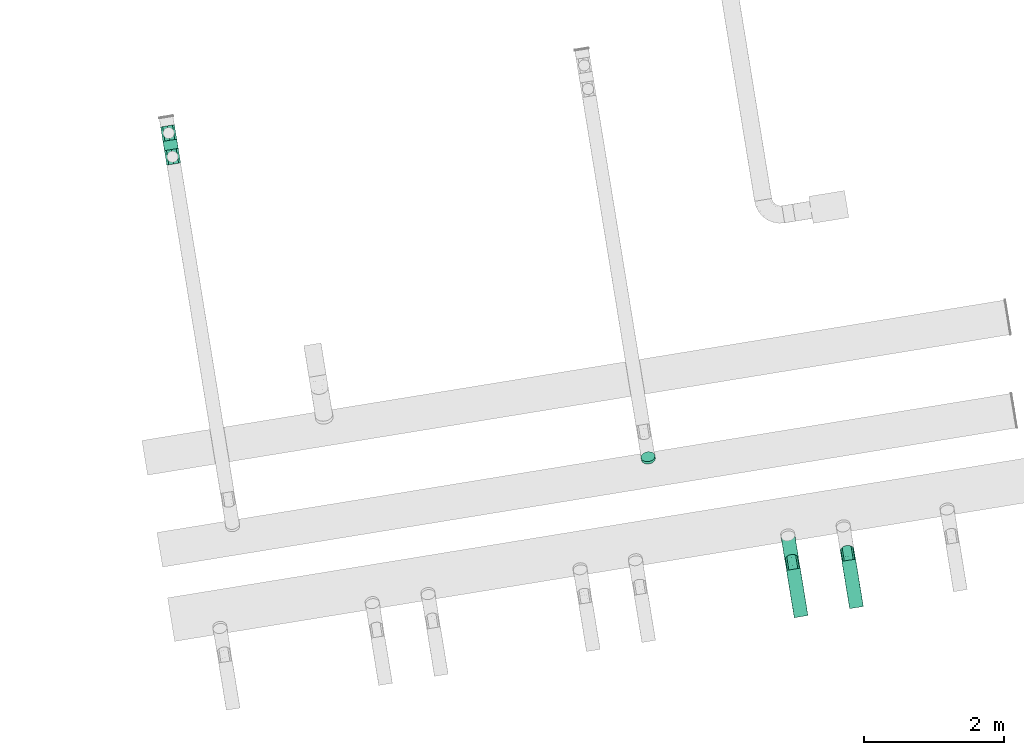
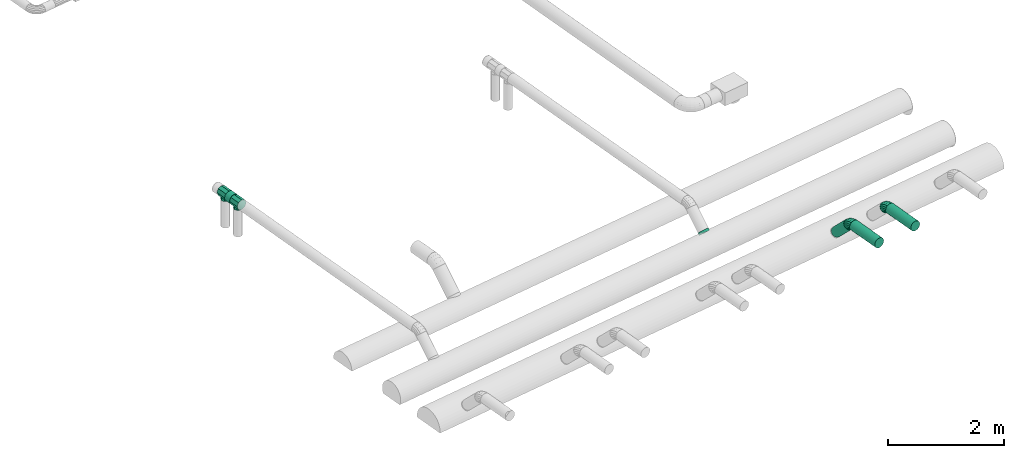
# One storey, part 4 of 19: 5 flow fittings, 4 flow segments.
"""IFC2X3 building model written with IfcOpenShell, lengths in millimetres."""

from ifc_helpers import new_model, entity, si_unit, converted_unit, derived_unit, direction, frame, frame_2d, origin, origin_with_axes, origin_2d_with_axis, place, context, subcontext, project, spatial, circle, extrude, faceted_brep, source, transform, mapped, material, type_object, element, save


model = new_model("IFC2X3")

# Units and contexts
model_context = context("Model", 3, precision=0.01, world=origin(), true_north=direction((6.12323399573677e-17, 1.0)))
plan_context = context("Plan", 3, precision=1e-05, world=origin_with_axes())
body_context = subcontext(model_context, "Body", "Model", "MODEL_VIEW")
ifc_project = project(units=[converted_unit("PLANEANGLEUNIT", "DEGREE", entity("IfcPositiveLengthMeasure", 0.0174532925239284), si_unit("PLANEANGLEUNIT", "RADIAN"), dimensions=[0, 0, 0, 0, 0, 0, 0]), si_unit("AREAUNIT", "SQUARE_METRE"), si_unit("LENGTHUNIT", "METRE", prefix="MILLI"), si_unit("MASSUNIT", "GRAM", prefix="KILO"), si_unit("POWERUNIT", "WATT"), si_unit("PRESSUREUNIT", "PASCAL", prefix="KILO"), si_unit("FORCEUNIT", "NEWTON", prefix="KILO"), si_unit("ELECTRICVOLTAGEUNIT", "VOLT"), si_unit("ELECTRICCURRENTUNIT", "AMPERE"), si_unit("THERMODYNAMICTEMPERATUREUNIT", "DEGREE_CELSIUS"), si_unit("TIMEUNIT", "SECOND"), si_unit("VOLUMEUNIT", "CUBIC_METRE"), derived_unit("LINEARVELOCITYUNIT", [(si_unit("LENGTHUNIT", "METRE"), 1), (si_unit("TIMEUNIT", "SECOND"), -1)]), derived_unit("VOLUMETRICFLOWRATEUNIT", [(si_unit("VOLUMEUNIT", "CUBIC_METRE"), 1), (si_unit("TIMEUNIT", "SECOND"), -1)]), derived_unit("THERMALTRANSMITTANCEUNIT", [(si_unit("POWERUNIT", "WATT"), 1), (si_unit("THERMODYNAMICTEMPERATUREUNIT", "KELVIN"), -1), (si_unit("AREAUNIT", "SQUARE_METRE"), -1)]), derived_unit("SOUNDPRESSUREUNIT", [(si_unit("PRESSUREUNIT", "PASCAL"), 1)])], contexts=[model_context, plan_context])

# Site, building, storey
site_placement = place(None, frame((5.09380697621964e-08, 5.80416781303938e-08, 0.0), z_axis=(0.0, 0.0, 1.0), x_axis=(-0.160806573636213, 0.986985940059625, 0.0)))
site = spatial("IfcSite", under=ifc_project, at=site_placement, Name="Default", CompositionType="ELEMENT")
building_placement = place(site_placement, frame((0.0, 0.0, 0.0), z_axis=(0.0, 0.0, 1.0), x_axis=(1.0, -2.77555756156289e-17, 0.0)))
building = spatial("IfcBuilding", under=site, at=building_placement, Name="Bygning (endres i Project Information)", CompositionType="ELEMENT")
storey_placement = place(building_placement, frame((0.0, 0.0, 51360.0000000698), z_axis=(0.0, 0.0, 1.0), x_axis=(1.0, -2.77555756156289e-17, 0.0)))
storey = spatial("IfcBuildingStorey", under=building, at=storey_placement, Name="H01-Nivå D+0,36", CompositionType="ELEMENT", Elevation=51360.0000000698)

# Flow fittings
ifc_material_1 = material(Name="DF_Material1")
duct_fitting_type_1 = type_object("IfcDuctFittingType", Name="Lindab TCPU:TCPU", PredefinedType="NOTDEFINED", material=ifc_material_1)
shared_shape_1 = source(origin(), body_context, "Body", "Brep", [
    faceted_brep([(80.0000001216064, -125.0, 0.0), (56.5685425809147, -125.0, 56.5685425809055), (0.0, -125.0, 80.0000001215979), (-56.5685425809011, -125.0, 56.5685425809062), (-80.0000001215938, -125.0, 0.0), (-56.568542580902, -125.0, -56.5685425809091), (0.0, -125.0, -80.0000001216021), (56.568542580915, -125.0, -56.568542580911), (-60.636107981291, -85.3037959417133, 52.1848869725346), (0.0, -60.0000000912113, 80.0000001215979), (-80.0000001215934, -100.000000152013, 0.0), (-70.3180540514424, -92.6518980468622, 26.092443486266), (-65.5820813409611, -89.4264237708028, -30.7499125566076), (-51.1641625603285, -78.852847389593, -61.4998251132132), (0.0, -60.0000000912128, -80.0000001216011), (60.6361079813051, -85.303795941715, -52.1848869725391), (80.0000001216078, -100.000000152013, 0.0), (70.3180540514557, -92.651898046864, -26.0924434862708), (65.5794107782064, -89.424691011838, 30.7521341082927), (51.1588214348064, -78.8493818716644, 61.504268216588), (-104.499999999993, -100.000000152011, 0.0), (-104.499999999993, -92.6776696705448, 17.677669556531), (-104.499999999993, -85.3553391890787, 35.3553391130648), (-104.499999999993, -70.7106782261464, 70.7106782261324), (-104.499999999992, 0.0, 100.000000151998), (-104.499999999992, 70.7106782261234, 70.7106782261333), (-104.499999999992, 100.000000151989, 0.0), (-104.499999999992, 70.7106782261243, -70.7106782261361), (-104.499999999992, 0.0, -100.000000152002), (-104.499999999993, -70.7106782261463, -70.7106782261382), (-104.499999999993, -85.3553391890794, -35.3553391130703), (104.500000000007, -70.7106782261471, 70.7106782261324), (104.500000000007, -85.3553391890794, 35.3553391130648), (104.500000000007, -100.000000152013, 0.0), (104.500000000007, -92.6776696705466, -17.6776695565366), (104.500000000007, -85.3553391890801, -35.3553391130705), (104.500000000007, -70.710678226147, -70.7106782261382), (104.500000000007, 0.0, -100.000000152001), (104.500000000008, 70.7106782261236, -70.7106782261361), (104.500000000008, 100.000000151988, 0.0), (104.500000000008, 70.7106782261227, 70.7106782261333), (104.500000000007, 0.0, 100.000000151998)], [[[0, 1, 2, 3, 4, 5, 6, 7]], [[2, 8, 3]], [[8, 2, 9]], [[10, 4, 3]], [[3, 8, 11, 10]], [[4, 10, 5]], [[5, 10, 12, 13]], [[13, 14, 6]], [[13, 6, 5]], [[6, 15, 7]], [[15, 6, 14]], [[16, 0, 7]], [[7, 15, 17, 16]], [[0, 16, 1]], [[1, 16, 18, 19]], [[19, 9, 2]], [[19, 2, 1]], [[20, 21, 22, 23, 24, 25, 26, 27, 28, 29, 30]], [[31, 32, 33, 34, 35, 36, 37, 38, 39, 40, 41]], [[24, 41, 40, 25]], [[40, 39, 26, 25]], [[39, 38, 27, 26]], [[38, 37, 28, 27]], [[37, 36, 14]], [[28, 14, 29]], [[14, 28, 37]], [[13, 29, 14]], [[17, 35, 34]], [[14, 36, 15]], [[35, 17, 15]], [[34, 16, 17]], [[30, 13, 12]], [[20, 30, 12]], [[15, 36, 35]], [[16, 34, 33]], [[13, 30, 29]], [[20, 12, 10]], [[11, 22, 21]], [[33, 18, 16]], [[11, 8, 22]], [[10, 21, 20]], [[32, 19, 18]], [[21, 10, 11]], [[32, 18, 33]], [[9, 19, 31]], [[31, 19, 32]], [[9, 31, 41]], [[23, 9, 24]], [[23, 8, 9]], [[24, 9, 41]], [[8, 23, 22]]]),
])
for number, where, z_axis, x_axis in (
    (1, (1000004.89913365, -385132.73177938, 3820.00000015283), (-2.77555756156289e-17, -1.0, 0.0), (1.0, -2.77555756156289e-17, 0.0)),
    (2, (1000347.1737039, -385132.73177938, 3820.00000015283), (-2.77555756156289e-17, -1.0, 0.0), (1.0, -2.77555756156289e-17, 0.0)),
):
    element("IfcFlowFitting", number, at=place(storey_placement, frame(where, z_axis=z_axis, x_axis=x_axis)), inside=storey, type_object=duct_fitting_type_1, material=ifc_material_1, Name="Lindab TCPU:TCPU", ObjectType="Lindab TCPU:TCPU", context=body_context, shape_type="MappedRepresentation", body=[
        mapped(shared_shape_1, transform((0.0, 0.0, 0.0), scale=1.0)),
    ])
ifc_material_2 = material(Name="3601.001 Avtrekk")
duct_fitting_type_2 = type_object("IfcDuctFittingType", Name="magicirc_elbow_full_radius_NOR:magicirc_elbow_full_radius_NOR", PredefinedType="NOTDEFINED", material=ifc_material_2)
shared_shape_2 = source(origin(), body_context, "Body", "Brep", [
    faceted_brep([(-24.3156158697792, -94.2355841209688, 0.0), (-25.4921544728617, -88.3207251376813, 34.2020143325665), (-82.8427124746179, -93.969262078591, 34.2020143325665), (-82.8427124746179, -100.0, 0.0), (-28.8798623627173, -71.2895674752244, 64.2787609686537), (-82.8427124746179, -76.604444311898, 64.2787609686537), (-34.0701319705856, -45.1963201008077, 86.6025403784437), (-82.8427124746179, -50.0, 86.6025403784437), (-40.4369401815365, -13.1882137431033, 98.4807753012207), (-82.842712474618, -17.3648177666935, 98.4807753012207), (-47.2123559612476, 20.8741015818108, 98.4807753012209), (-82.842712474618, 17.3648177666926, 98.4807753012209), (-53.5791641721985, 52.8822079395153, 86.6025403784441), (-82.8427124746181, 50.0, 86.6025403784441), (-58.7694337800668, 78.9754553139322, 64.2787609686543), (-82.8427124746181, 76.6044443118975, 64.2787609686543), (-62.1571416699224, 96.0066129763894, 34.2020143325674), (-82.8427124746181, 93.9692620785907, 34.2020143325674), (-63.3336802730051, 101.921471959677, 0.0), (-82.8427124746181, 100.0, 0.0), (-62.1571416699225, 96.0066129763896, -34.2020143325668), (-82.8427124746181, 93.9692620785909, -34.2020143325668), (-58.7694337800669, 78.9754553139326, -64.2787609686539), (-82.8427124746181, 76.6044443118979, -64.2787609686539), (-53.5791641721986, 52.8822079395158, -86.6025403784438), (-82.8427124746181, 50.0, -86.6025403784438), (-47.2123559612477, 20.8741015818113, -98.4807753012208), (-82.842712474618, 17.3648177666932, -98.4807753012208), (-40.4369401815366, -13.1882137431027, -98.4807753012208), (-82.842712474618, -17.3648177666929, -98.4807753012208), (-34.0701319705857, -45.1963201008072, -86.6025403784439), (-82.8427124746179, -50.0, -86.6025403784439), (-28.8798623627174, -71.289567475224, -64.2787609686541), (-82.8427124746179, -76.6044443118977, -64.2787609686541), (-25.4921544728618, -88.3207251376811, -34.2020143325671), (-82.8427124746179, -93.9692620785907, -34.2020143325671), (31.9623172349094, -77.1638597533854, 0.0), (29.6544537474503, -71.5921844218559, 34.2020143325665), (23.0092256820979, -55.54918470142, 64.2787609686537), (12.828145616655, -30.9698831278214, 86.6025403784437), (0.3392020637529, -0.818906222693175, 98.4807753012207), (-12.9512540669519, 31.267093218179, 98.4807753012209), (-25.440197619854, 61.4180701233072, 86.6025403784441), (-35.621277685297, 85.997371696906, 64.2787609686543), (-42.2665057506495, 102.040371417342, 34.2020143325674), (-44.5743692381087, 107.612046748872, 0.0), (-42.2665057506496, 102.040371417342, -34.2020143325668), (-35.6212776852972, 85.9973716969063, -64.2787609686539), (-25.4401976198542, 61.4180701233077, -86.6025403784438), (-12.9512540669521, 31.2670932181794, -98.4807753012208), (0.339202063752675, -0.818906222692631, -98.4807753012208), (12.8281456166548, -30.9698831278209, -86.6025403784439), (23.0092256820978, -55.5491847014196, -64.2787609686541), (29.6544537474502, -71.5921844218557, -34.2020143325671), (83.8283574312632, -49.4408836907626, 0.0), (80.4778589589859, -44.4265083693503, 34.2020143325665), (70.8304831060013, -29.9881900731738, 64.2787609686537), (56.0498457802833, -7.86740307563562, 86.6025403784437), (37.9187099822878, 19.2677592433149, 98.4807753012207), (18.6239582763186, 48.1443958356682, 98.4807753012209), (0.492822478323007, 75.2795581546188, 86.6025403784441), (-14.2878148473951, 97.4003451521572, 64.2787609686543), (-23.9351907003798, 111.838663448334, 34.2020143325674), (-27.2856891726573, 116.853038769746, 0.0), (-23.9351907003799, 111.838663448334, -34.2020143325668), (-14.2878148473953, 97.4003451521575, -64.2787609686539), (0.492822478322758, 75.2795581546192, -86.6025403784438), (18.6239582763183, 48.1443958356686, -98.4807753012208), (37.9187099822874, 19.2677592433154, -98.4807753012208), (56.049845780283, -7.86740307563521, -86.6025403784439), (70.8304831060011, -29.9881900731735, -64.2787609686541), (80.4778589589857, -44.4265083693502, -34.2020143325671), (129.289321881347, -12.1320343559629, 0.0), (125.02494620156, -7.86765867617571, 34.2020143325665), (112.746165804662, 4.41112172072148, 64.2787609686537), (93.9339828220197, 23.2233047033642, 86.6025403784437), (70.8574241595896, 46.2998633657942, 98.4807753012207), (46.299863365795, 70.8574241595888, 98.4807753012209), (23.2233047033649, 93.9339828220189, 86.6025403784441), (4.41112172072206, 112.746165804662, 64.2787609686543), (-7.86765867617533, 125.024946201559, 34.2020143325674), (-12.1320343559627, 129.289321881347, 0.0), (-7.86765867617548, 125.024946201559, -34.2020143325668), (4.41112172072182, 112.746165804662, -64.2787609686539), (23.2233047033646, 93.9339828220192, -86.6025403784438), (46.2998633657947, 70.8574241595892, -98.4807753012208), (70.8574241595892, 46.2998633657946, -98.4807753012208), (93.9339828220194, 23.2233047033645, -86.6025403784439), (112.746165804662, 4.41112172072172, -64.2787609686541), (125.02494620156, -7.86765867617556, -34.2020143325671)], [[[0, 1, 2, 3]], [[1, 4, 5, 2]], [[4, 6, 7, 5]], [[6, 8, 9, 7]], [[8, 10, 11, 9]], [[10, 12, 13, 11]], [[12, 14, 15, 13]], [[14, 16, 17, 15]], [[16, 18, 19, 17]], [[18, 20, 21, 19]], [[20, 22, 23, 21]], [[22, 24, 25, 23]], [[24, 26, 27, 25]], [[26, 28, 29, 27]], [[28, 30, 31, 29]], [[30, 32, 33, 31]], [[32, 34, 35, 33]], [[34, 0, 3, 35]], [[36, 37, 1, 0]], [[37, 38, 4, 1]], [[38, 39, 6, 4]], [[39, 40, 8, 6]], [[40, 41, 10, 8]], [[41, 42, 12, 10]], [[42, 43, 14, 12]], [[43, 44, 16, 14]], [[44, 45, 18, 16]], [[45, 46, 20, 18]], [[46, 47, 22, 20]], [[47, 48, 24, 22]], [[48, 49, 26, 24]], [[49, 50, 28, 26]], [[50, 51, 30, 28]], [[51, 52, 32, 30]], [[52, 53, 34, 32]], [[53, 36, 0, 34]], [[54, 55, 37, 36]], [[55, 56, 38, 37]], [[56, 57, 39, 38]], [[57, 58, 40, 39]], [[58, 59, 41, 40]], [[59, 60, 42, 41]], [[60, 61, 43, 42]], [[61, 62, 44, 43]], [[62, 63, 45, 44]], [[63, 64, 46, 45]], [[64, 65, 47, 46]], [[65, 66, 48, 47]], [[66, 67, 49, 48]], [[67, 68, 50, 49]], [[68, 69, 51, 50]], [[69, 70, 52, 51]], [[70, 71, 53, 52]], [[71, 54, 36, 53]], [[72, 73, 55, 54]], [[73, 74, 56, 55]], [[74, 75, 57, 56]], [[75, 76, 58, 57]], [[76, 77, 59, 58]], [[77, 78, 60, 59]], [[78, 79, 61, 60]], [[79, 80, 62, 61]], [[80, 81, 63, 62]], [[81, 82, 64, 63]], [[82, 83, 65, 64]], [[83, 84, 66, 65]], [[84, 85, 67, 66]], [[85, 86, 68, 67]], [[86, 87, 69, 68]], [[87, 88, 70, 69]], [[88, 89, 71, 70]], [[89, 72, 54, 71]], [[3, 2, 5, 7, 9, 11, 13, 15, 17, 19, 21, 23, 25, 27, 29, 31, 33, 35]], [[89, 88, 87, 86, 85, 84, 83, 82, 81, 80, 79, 78, 77, 76, 75, 74, 73, 72]]]),
])
for number, where, z_axis, x_axis, name in (
    (3, (992862.921338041, -392919.987431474, 3800.0), (2.77555756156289e-17, 1.0, 0.0), (1.0, -2.77555756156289e-17, 0.0), "magicirc_elbow_full_radius_NOR:magicirc_elbow_full_radius_NOR"),
    (4, (992862.921338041, -393719.987431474, 3800.0), (2.77555756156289e-17, 1.0, 0.0), (1.0, -2.77555756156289e-17, 0.0), "magicirc_elbow_full_radius_NOR:magicirc_elbow_full_radius_NOR"),
):
    element("IfcFlowFitting", number, at=place(storey_placement, frame(where, z_axis=z_axis, x_axis=x_axis)), inside=storey, type_object=duct_fitting_type_2, material=ifc_material_2, Name=name, ObjectType="magicirc_elbow_full_radius_NOR:magicirc_elbow_full_radius_NOR", context=body_context, shape_type="MappedRepresentation", body=[
        mapped(shared_shape_2, transform((0.0, 0.0, 0.0), scale=1.0)),
    ])
duct_fitting_type_3 = type_object("IfcDuctFittingType", Name="magicirc_tapoutlet_001:magicirc_tapoutlet_001", PredefinedType="NOTDEFINED", material=ifc_material_2)
shared_shape_3 = source(origin(), body_context, "Body", "Brep", [
    faceted_brep([(-26.9672152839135, 0.0, -100.000000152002), (-26.9672152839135, -25.8819045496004, -96.5925827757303), (-26.9672152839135, -50.0000000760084, -86.6025405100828), (-26.9672152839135, -70.7106782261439, -70.7106782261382), (-26.9672152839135, -86.6025405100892, -50.0000000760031), (-26.9672152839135, -96.5925827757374, -25.8819045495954), (-26.9672152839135, -100.000000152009, 0.0), (-26.9672152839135, -96.5925827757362, 25.8819045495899), (-26.9672152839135, -86.6025405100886, 50.0000000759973), (-26.9672152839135, -70.710678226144, 70.7106782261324), (-26.9672152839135, -50.0000000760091, 86.6025405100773), (-26.9672152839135, -25.8819045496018, 96.5925827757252), (-26.9672152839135, 0.0, 100.000000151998), (-26.9672152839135, 25.8819045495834, 96.5925827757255), (-26.9672152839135, 50.0000000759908, 86.6025405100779), (-26.9672152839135, 70.7106782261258, 70.7106782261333), (-26.9672152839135, 86.6025405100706, 50.0000000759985), (-26.9672152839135, 96.5925827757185, 25.8819045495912), (-26.9672152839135, 100.000000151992, 0.0), (-26.9672152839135, 96.5925827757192, -25.8819045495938), (-26.9672152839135, 86.6025405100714, -50.0000000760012), (-26.9672152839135, 70.7106782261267, -70.7106782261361), (-26.9672152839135, 50.0000000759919, -86.6025405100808), (-26.9672152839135, 25.8819045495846, -96.5925827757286), (0.0, 0.0, 100.000000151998), (20.0, 0.0, 100.000000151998), (20.0, 25.8819045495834, 96.5925827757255), (0.0, 25.8819045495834, 96.5925827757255), (20.0, 50.0000000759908, 86.6025405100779), (0.0, 50.0000000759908, 86.6025405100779), (20.0, 70.7106782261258, 70.7106782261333), (0.0, 70.7106782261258, 70.7106782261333), (0.0, 86.6025405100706, 50.0000000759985), (20.0, 86.6025405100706, 50.0000000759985), (20.0, 96.5925827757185, 25.8819045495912), (0.0, 96.5925827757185, 25.8819045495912), (20.0, 100.000000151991, 0.0), (0.0, 100.000000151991, 0.0), (20.0, 96.5925827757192, -25.8819045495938), (0.0, 96.5925827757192, -25.8819045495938), (20.0, 86.6025405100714, -50.0000000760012), (0.0, 86.6025405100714, -50.0000000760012), (20.0, 70.7106782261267, -70.7106782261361), (0.0, 70.7106782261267, -70.7106782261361), (0.0, 25.8819045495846, -96.5925827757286), (20.0, 25.8819045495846, -96.5925827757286), (20.0, 0.0, -100.000000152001), (0.0, 0.0, -100.000000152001), (0.0, 50.0000000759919, -86.6025405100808), (20.0, 50.0000000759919, -86.6025405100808), (20.0, -25.8819045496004, -96.5925827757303), (0.0, -25.8819045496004, -96.5925827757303), (20.0, -50.0000000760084, -86.6025405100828), (0.0, -50.0000000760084, -86.6025405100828), (20.0, -70.7106782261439, -70.7106782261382), (0.0, -70.7106782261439, -70.7106782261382), (0.0, -86.6025405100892, -50.0000000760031), (20.0, -86.6025405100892, -50.0000000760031), (20.0, -96.5925827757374, -25.8819045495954), (0.0, -96.5925827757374, -25.8819045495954), (20.0, -100.00000015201, 0.0), (0.0, -100.00000015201, 0.0), (20.0, -96.5925827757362, 25.8819045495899), (0.0, -96.5925827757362, 25.8819045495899), (20.0, -86.6025405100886, 50.0000000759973), (0.0, -86.6025405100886, 50.0000000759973), (20.0, -70.710678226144, 70.7106782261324), (0.0, -70.710678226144, 70.7106782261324), (0.0, -50.0000000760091, 86.6025405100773), (20.0, -50.0000000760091, 86.6025405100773), (20.0, -25.8819045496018, 96.5925827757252), (0.0, -25.8819045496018, 96.5925827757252)], [[[0, 1, 2, 3, 4, 5, 6, 7, 8, 9, 10, 11, 12, 13, 14, 15, 16, 17, 18, 19, 20, 21, 22, 23]], [[12, 24, 25, 26, 27, 13]], [[13, 27, 26, 28, 29, 14]], [[14, 29, 28, 30, 31, 15]], [[16, 32, 33, 34, 35, 17]], [[17, 35, 34, 36, 37, 18]], [[15, 31, 30, 33, 32, 16]], [[18, 37, 36, 38, 39, 19]], [[19, 39, 38, 40, 41, 20]], [[20, 41, 40, 42, 43, 21]], [[44, 45, 46, 47, 0, 23]], [[48, 49, 45, 44, 23, 22]], [[21, 43, 42, 49, 48, 22]], [[0, 47, 46, 50, 51, 1]], [[1, 51, 50, 52, 53, 2]], [[2, 53, 52, 54, 55, 3]], [[4, 56, 57, 58, 59, 5]], [[5, 59, 58, 60, 61, 6]], [[3, 55, 54, 57, 56, 4]], [[6, 61, 60, 62, 63, 7]], [[7, 63, 62, 64, 65, 8]], [[8, 65, 64, 66, 67, 9]], [[10, 68, 69, 70, 71, 11]], [[11, 71, 70, 25, 24, 12]], [[9, 67, 66, 69, 68, 10]], [[45, 49, 42, 40, 38, 36, 34, 33, 30, 28, 26, 25, 70, 69, 66, 64, 62, 60, 58, 57, 54, 52, 50, 46]]]),
    faceted_brep([(20.0, 25.8819045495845, -96.5925827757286), (20.0, 50.0000000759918, -86.6025405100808), (20.0, 70.7106782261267, -70.7106782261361), (20.0, 86.6025405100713, -50.0000000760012), (20.0, 96.5925827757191, -25.8819045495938), (20.0, 100.000000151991, 0.0), (20.0, 96.5925827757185, 25.8819045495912), (20.0, 86.6025405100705, 50.0000000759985), (20.0, 70.7106782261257, 70.7106782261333), (20.0, 50.0000000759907, 86.6025405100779), (20.0, 25.8819045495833, 96.5925827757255), (20.0, 0.0, 100.000000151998), (20.0, -25.8819045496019, 96.5925827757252), (20.0, -50.0000000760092, 86.6025405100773), (20.0, -70.710678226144, 70.7106782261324), (20.0, -86.6025405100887, 50.0000000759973), (20.0, -96.5925827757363, 25.8819045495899), (20.0, -100.00000015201, 0.0), (20.0, -96.5925827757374, -25.8819045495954), (20.0, -86.6025405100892, -50.0000000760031), (20.0, -70.710678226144, -70.7106782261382), (20.0, -50.0000000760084, -86.6025405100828), (20.0, -25.8819045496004, -96.5925827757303), (20.0, 0.0, -100.000000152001), (0.0, 0.0, 100.000000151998), (0.0, 25.8819045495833, 96.5925827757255), (-26.9672152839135, 25.8819045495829, 96.5925827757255), (-26.9672152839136, 0.0, 100.000000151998), (0.0, 50.0000000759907, 86.6025405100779), (-26.9672152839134, 50.0000000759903, 86.6025405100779), (0.0, 70.7106782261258, 70.7106782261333), (-26.9672152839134, 70.7106782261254, 70.7106782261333), (0.0, 86.6025405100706, 50.0000000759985), (0.0, 96.5925827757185, 25.8819045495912), (-26.9672152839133, 96.5925827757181, 25.8819045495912), (-26.9672152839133, 86.6025405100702, 50.0000000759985), (0.0, 100.000000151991, 0.0), (-26.9672152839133, 100.000000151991, 0.0), (0.0, 96.5925827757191, -25.8819045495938), (-26.9672152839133, 96.5925827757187, -25.8819045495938), (0.0, 86.6025405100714, -50.0000000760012), (-26.9672152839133, 86.602540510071, -50.0000000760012), (0.0, 70.7106782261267, -70.7106782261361), (-26.9672152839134, 70.7106782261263, -70.7106782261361), (0.0, 0.0, -100.000000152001), (-26.9672152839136, 0.0, -100.000000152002), (-26.9672152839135, 25.8819045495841, -96.5925827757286), (0.0, 25.8819045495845, -96.5925827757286), (-26.9672152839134, 50.0000000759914, -86.6025405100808), (0.0, 50.0000000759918, -86.6025405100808), (0.0, -25.8819045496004, -96.5925827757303), (-26.9672152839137, -25.8819045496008, -96.5925827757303), (0.0, -50.0000000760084, -86.6025405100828), (-26.9672152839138, -50.0000000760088, -86.6025405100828), (0.0, -70.7106782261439, -70.7106782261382), (-26.9672152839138, -70.7106782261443, -70.7106782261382), (0.0, -86.6025405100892, -50.0000000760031), (0.0, -96.5925827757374, -25.8819045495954), (-26.9672152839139, -96.5925827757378, -25.8819045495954), (-26.9672152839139, -86.6025405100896, -50.0000000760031), (0.0, -100.00000015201, 0.0), (-26.9672152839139, -100.000000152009, 0.0), (0.0, -96.5925827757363, 25.8819045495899), (-26.9672152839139, -96.5925827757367, 25.8819045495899), (0.0, -86.6025405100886, 50.0000000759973), (-26.9672152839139, -86.602540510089, 50.0000000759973), (0.0, -70.710678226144, 70.7106782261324), (-26.9672152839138, -70.7106782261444, 70.7106782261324), (0.0, -50.0000000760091, 86.6025405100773), (0.0, -25.8819045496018, 96.5925827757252), (-26.9672152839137, -25.8819045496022, 96.5925827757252), (-26.9672152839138, -50.0000000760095, 86.6025405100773)], [[[0, 1, 2, 3, 4, 5, 6, 7, 8, 9, 10, 11, 12, 13, 14, 15, 16, 17, 18, 19, 20, 21, 22, 23]], [[24, 11, 10, 25, 26, 27]], [[25, 10, 9, 28, 29, 26]], [[28, 9, 8, 30, 31, 29]], [[32, 7, 6, 33, 34, 35]], [[33, 6, 5, 36, 37, 34]], [[30, 8, 7, 32, 35, 31]], [[36, 5, 4, 38, 39, 37]], [[38, 4, 3, 40, 41, 39]], [[40, 3, 2, 42, 43, 41]], [[0, 23, 44, 45, 46, 47]], [[1, 0, 47, 46, 48, 49]], [[42, 2, 1, 49, 48, 43]], [[44, 23, 22, 50, 51, 45]], [[50, 22, 21, 52, 53, 51]], [[52, 21, 20, 54, 55, 53]], [[56, 19, 18, 57, 58, 59]], [[57, 18, 17, 60, 61, 58]], [[54, 20, 19, 56, 59, 55]], [[60, 17, 16, 62, 63, 61]], [[62, 16, 15, 64, 65, 63]], [[64, 15, 14, 66, 67, 65]], [[68, 13, 12, 69, 70, 71]], [[69, 12, 11, 24, 27, 70]], [[66, 14, 13, 68, 71, 67]], [[45, 51, 53, 55, 59, 58, 61, 63, 65, 67, 71, 70, 27, 26, 29, 31, 35, 34, 37, 39, 41, 43, 48, 46]]]),
    faceted_brep([(-26.9672152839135, 0.0, -100.000000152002), (-26.9672152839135, -25.8819045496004, -96.5925827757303), (-26.9672152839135, -50.0000000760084, -86.6025405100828), (-26.9672152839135, -70.7106782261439, -70.7106782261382), (-26.9672152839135, -86.6025405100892, -50.0000000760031), (-26.9672152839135, -96.5925827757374, -25.8819045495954), (-26.9672152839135, -100.000000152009, 0.0), (-26.9672152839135, -96.5925827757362, 25.8819045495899), (-26.9672152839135, -86.6025405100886, 50.0000000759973), (-26.9672152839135, -70.710678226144, 70.7106782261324), (-26.9672152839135, -50.0000000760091, 86.6025405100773), (-26.9672152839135, -25.8819045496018, 96.5925827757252), (-26.9672152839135, 0.0, 100.000000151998), (-26.9672152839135, 25.8819045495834, 96.5925827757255), (-26.9672152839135, 50.0000000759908, 86.6025405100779), (-26.9672152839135, 70.7106782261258, 70.7106782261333), (-26.9672152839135, 86.6025405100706, 50.0000000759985), (-26.9672152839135, 96.5925827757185, 25.8819045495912), (-26.9672152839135, 100.000000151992, 0.0), (-26.9672152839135, 96.5925827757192, -25.8819045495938), (-26.9672152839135, 86.6025405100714, -50.0000000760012), (-26.9672152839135, 70.7106782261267, -70.7106782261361), (-26.9672152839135, 50.0000000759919, -86.6025405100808), (-26.9672152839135, 25.8819045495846, -96.5925827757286), (0.0, 0.0, 100.000000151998), (20.0, 0.0, 100.000000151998), (20.0, 25.8819045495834, 96.5925827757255), (0.0, 25.8819045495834, 96.5925827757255), (20.0, 50.0000000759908, 86.6025405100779), (0.0, 50.0000000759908, 86.6025405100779), (20.0, 70.7106782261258, 70.7106782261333), (0.0, 70.7106782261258, 70.7106782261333), (0.0, 86.6025405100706, 50.0000000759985), (20.0, 86.6025405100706, 50.0000000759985), (20.0, 96.5925827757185, 25.8819045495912), (0.0, 96.5925827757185, 25.8819045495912), (20.0, 100.000000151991, 0.0), (0.0, 100.000000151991, 0.0), (20.0, 96.5925827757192, -25.8819045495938), (0.0, 96.5925827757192, -25.8819045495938), (20.0, 86.6025405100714, -50.0000000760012), (0.0, 86.6025405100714, -50.0000000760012), (20.0, 70.7106782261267, -70.7106782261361), (0.0, 70.7106782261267, -70.7106782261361), (0.0, 25.8819045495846, -96.5925827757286), (20.0, 25.8819045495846, -96.5925827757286), (20.0, 0.0, -100.000000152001), (0.0, 0.0, -100.000000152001), (0.0, 50.0000000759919, -86.6025405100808), (20.0, 50.0000000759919, -86.6025405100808), (20.0, -25.8819045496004, -96.5925827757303), (0.0, -25.8819045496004, -96.5925827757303), (20.0, -50.0000000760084, -86.6025405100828), (0.0, -50.0000000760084, -86.6025405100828), (20.0, -70.7106782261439, -70.7106782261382), (0.0, -70.7106782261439, -70.7106782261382), (0.0, -86.6025405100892, -50.0000000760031), (20.0, -86.6025405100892, -50.0000000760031), (20.0, -96.5925827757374, -25.8819045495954), (0.0, -96.5925827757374, -25.8819045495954), (20.0, -100.00000015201, 0.0), (0.0, -100.00000015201, 0.0), (20.0, -96.5925827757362, 25.8819045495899), (0.0, -96.5925827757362, 25.8819045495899), (20.0, -86.6025405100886, 50.0000000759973), (0.0, -86.6025405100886, 50.0000000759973), (20.0, -70.710678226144, 70.7106782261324), (0.0, -70.710678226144, 70.7106782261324), (0.0, -50.0000000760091, 86.6025405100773), (20.0, -50.0000000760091, 86.6025405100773), (20.0, -25.8819045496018, 96.5925827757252), (0.0, -25.8819045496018, 96.5925827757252)], [[[0, 1, 2, 3, 4, 5, 6, 7, 8, 9, 10, 11, 12, 13, 14, 15, 16, 17, 18, 19, 20, 21, 22, 23]], [[12, 24, 25, 26, 27, 13]], [[13, 27, 26, 28, 29, 14]], [[14, 29, 28, 30, 31, 15]], [[16, 32, 33, 34, 35, 17]], [[17, 35, 34, 36, 37, 18]], [[15, 31, 30, 33, 32, 16]], [[18, 37, 36, 38, 39, 19]], [[19, 39, 38, 40, 41, 20]], [[20, 41, 40, 42, 43, 21]], [[44, 45, 46, 47, 0, 23]], [[48, 49, 45, 44, 23, 22]], [[21, 43, 42, 49, 48, 22]], [[0, 47, 46, 50, 51, 1]], [[1, 51, 50, 52, 53, 2]], [[2, 53, 52, 54, 55, 3]], [[4, 56, 57, 58, 59, 5]], [[5, 59, 58, 60, 61, 6]], [[3, 55, 54, 57, 56, 4]], [[6, 61, 60, 62, 63, 7]], [[7, 63, 62, 64, 65, 8]], [[8, 65, 64, 66, 67, 9]], [[10, 68, 69, 70, 71, 11]], [[11, 71, 70, 25, 24, 12]], [[9, 67, 66, 69, 68, 10]], [[45, 49, 42, 40, 38, 36, 34, 33, 30, 28, 26, 25, 70, 69, 66, 64, 62, 60, 58, 57, 54, 52, 50, 46]]]),
])
flow_fitting_placement = place(storey_placement, frame((994682.798156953, -391132.73177938, 3426.77669594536), z_axis=(-0.707106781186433, 9.81307786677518e-18, 0.707106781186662), x_axis=(0.707106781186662, 1.38777878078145e-17, 0.707106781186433)))
element("IfcFlowFitting", 5, at=flow_fitting_placement, inside=storey, type_object=duct_fitting_type_3, material=ifc_material_2, Name="magicirc_tapoutlet_001:magicirc_tapoutlet_001", ObjectType="magicirc_tapoutlet_001:magicirc_tapoutlet_001", context=body_context, shape_type="MappedRepresentation", body=[
    mapped(shared_shape_3, transform((0.0, 0.0, 0.0), scale=1.0)),
])

# Flow segments
ifc_material_3 = material(Name="3601.001 Tilluft")
duct_segment_type = type_object("IfcDuctSegmentType", Name="Round Duct:Sirkulær kanal", PredefinedType="NOTDEFINED", material=ifc_material_3)
flow_segment_1_placement = place(storey_placement, frame((0.0, 0.0, 0.0), z_axis=(0.0, 0.0, 1.0), x_axis=(1.0, -2.77555756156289e-17, 0.0)))
element("IfcFlowSegment", 6, at=flow_segment_1_placement, inside=storey, type_object=duct_segment_type, Name="Round Duct:Sirkulær kanal", ObjectType="Round Duct:Sirkulær kanal", context=body_context, shape_type="SweptSolid", body=[
    extrude(circle(Radius=100.000000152, at=origin_2d_with_axis()), frame((992095.9462867, -392919.987431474, 3800.0), z_axis=(1.0, 0.0, 0.0), x_axis=(0.0, 1.0, 0.0)), (0.0, 0.0, 1.0), 684.132338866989),
])
flow_segment_2_placement = place(storey_placement, frame((0.0, 0.0, 0.0), z_axis=(0.0, 0.0, 1.0), x_axis=(1.0, -2.77555756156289e-17, 0.0)))
element("IfcFlowSegment", 7, at=flow_segment_2_placement, inside=storey, type_object=duct_segment_type, Name="Round Duct:Sirkulær kanal", ObjectType="Round Duct:Sirkulær kanal", context=body_context, shape_type="SweptSolid", body=[
    extrude(circle(Radius=100.000000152, at=frame_2d((-6.93034962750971e-11, 0.0), x_axis=(1.0, 0.0))), frame((992095.9462867, -393719.987431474, 3800.0), z_axis=(1.0, 0.0, 0.0), x_axis=(0.0, 1.0, 0.0)), (0.0, 0.0, 1.0), 684.132338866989),
])
flow_segment_3_placement = place(storey_placement, frame((0.0, 0.0, 0.0), z_axis=(0.0, 0.0, 1.0), x_axis=(1.0, -2.77555756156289e-17, 0.0)))
element("IfcFlowSegment", 8, at=flow_segment_3_placement, inside=storey, type_object=duct_segment_type, Name="Round Duct:Sirkulær kanal", ObjectType="Round Duct:Sirkulær kanal", context=body_context, shape_type="SweptSolid", body=[
    extrude(circle(Radius=100.000000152, at=frame_2d((0.0, -8.66293703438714e-12), x_axis=(1.0, 0.0))), frame((1000109.39913365, -385132.73177938, 3820.00000015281), z_axis=(1.0, 0.0, 0.0), x_axis=(0.0, 1.0, 0.0)), (0.0, 0.0, 1.0), 133.274570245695),
])
flow_segment_4_placement = place(storey_placement, frame((0.0, 0.0, 0.0), z_axis=(0.0, 0.0, 1.0), x_axis=(1.0, -2.77555756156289e-17, 0.0)))
element("IfcFlowSegment", 9, at=flow_segment_4_placement, inside=storey, type_object=duct_segment_type, Name="Round Duct:Sirkulær kanal", ObjectType="Round Duct:Sirkulær kanal", context=body_context, shape_type="SweptSolid", body=[
    extrude(circle(Radius=100.000000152, at=frame_2d((-6.93034807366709e-11, 1.22513309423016e-11), x_axis=(1.0, 0.0))), frame((992921.499981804, -392919.987431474, 3741.42135623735), z_axis=(0.707106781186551, 0.0, -0.707106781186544), x_axis=(-8.96830393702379e-07, -1.0, -8.96830393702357e-07)), (0.0, 0.0, 1.0), 480.161367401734),
])

save(model, "model.ifc")
